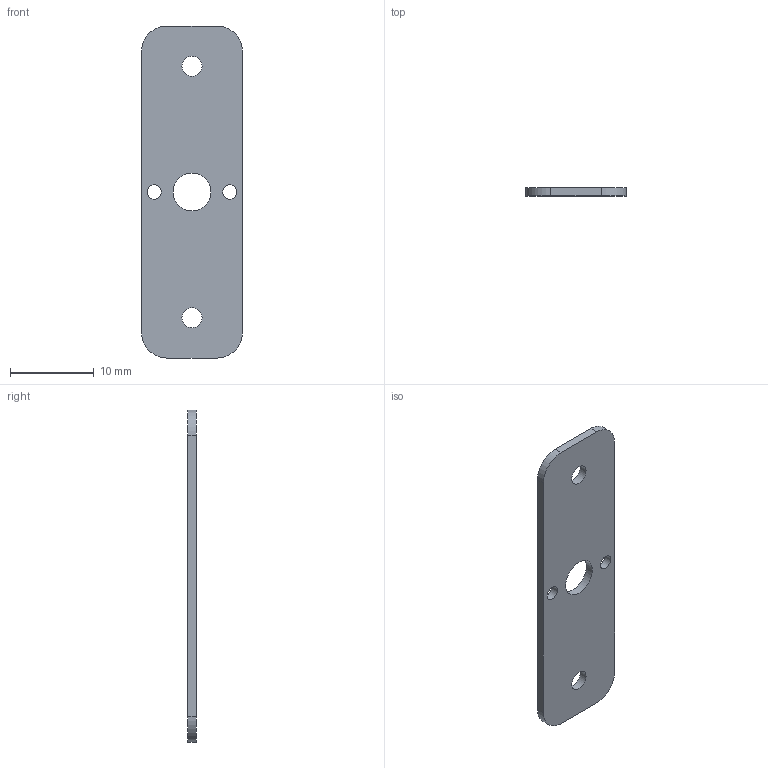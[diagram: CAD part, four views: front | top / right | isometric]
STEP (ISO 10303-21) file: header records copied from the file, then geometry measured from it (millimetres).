
FILE_DESCRIPTION(/* description */ (''),/* implementation_level */ '2;1');
FILE_NAME(/* name */ '',/* time_stamp */ '2025-10-06T16:29:47+08:00',/* author */ (''),/* organization */ (''),/* preprocessor_version */ 'ST-DEVELOPER v20.1',/* originating_system */ 'Autodesk Translation Framework v14.17.0.0',/* authorisation */ '');
FILE_SCHEMA (('AUTOMOTIVE_DESIGN { 1 0 10303 214 3 1 1 }'));
Length unit declared in the file: millimetre
Products named in the file (1): 电机连接器
Bounding box: 12 x 1 x 39.59 mm (x, y, z)
Volume: 437.9 mm3; surface area: 1013.8 mm2
Topology: 1 solids, 1 shells, 15 faces, 39 edges, 26 vertices
Faces by surface type: cylinder 9, plane 6
Full cylindrical faces by diameter (mm): 1.7 x2, 2.4 x2, 4.5 x1
Entity records: 524 total; most frequent: DIRECTION 89, CARTESIAN_POINT 81, ORIENTED_EDGE 78, EDGE_CURVE 39, AXIS2_PLACEMENT_3D 34, VERTEX_POINT 26, EDGE_LOOP 25, LINE 21
